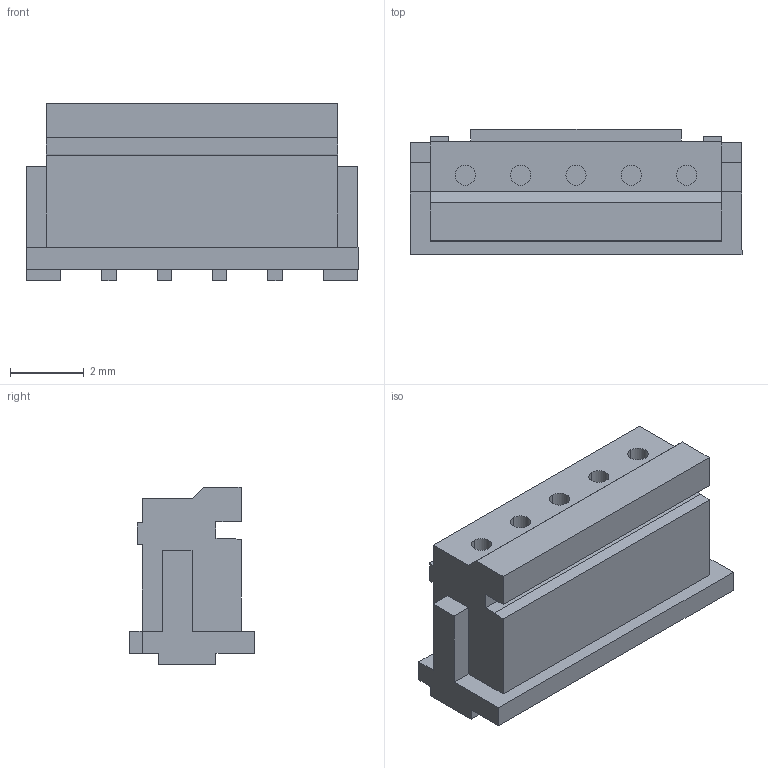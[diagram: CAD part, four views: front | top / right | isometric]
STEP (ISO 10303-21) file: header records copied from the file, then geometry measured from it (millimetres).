
FILE_DESCRIPTION (( 'STEP AP214' ), '1' );
FILE_NAME ('ZHR-5.STEP', '2012-02-07T01:45:21', ( ' ' ), ( ' ' ), 'SwSTEP 2.0', 'SolidWorks 2005235', '' );
FILE_SCHEMA (( 'AUTOMOTIVE_DESIGN' ));
Length unit declared in the file: millimetre
Products named in the file (1): ZHR-5
Bounding box: 9 x 3.4 x 4.8 mm (x, y, z)
Volume: 94.7 mm3; surface area: 188.4 mm2
Topology: 1 solids, 1 shells, 96 faces, 247 edges, 158 vertices
Faces by surface type: plane 86, cylinder 10
Entity records: 3930 total; most frequent: CARTESIAN_POINT 502, ORIENTED_EDGE 494, DIRECTION 461, EDGE_CURVE 247, VECTOR 227, LINE 227, VERTEX_POINT 158, AXIS2_PLACEMENT_3D 117
